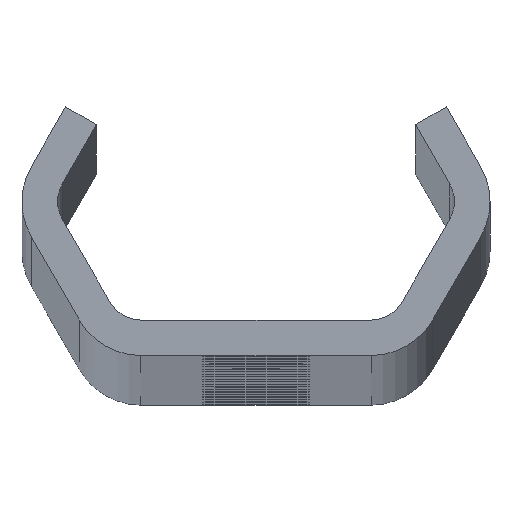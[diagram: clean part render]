
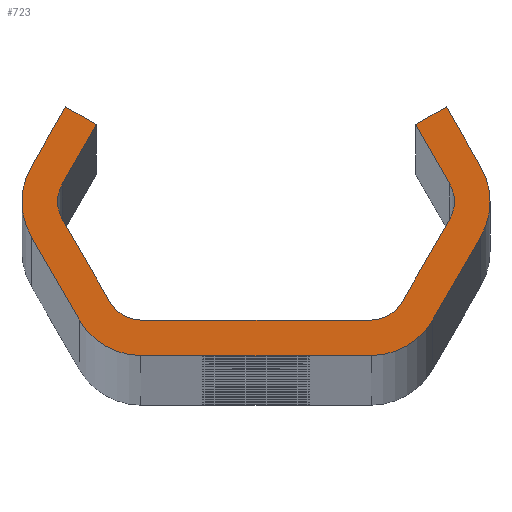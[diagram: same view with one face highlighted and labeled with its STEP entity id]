
A CAD part, top view. The second image highlights one B-rep face of the part: STEP entity #723.
In plain terms, the highlighted planar face has unit normal (0, 0, 1).
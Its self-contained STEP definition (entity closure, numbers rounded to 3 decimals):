
#723=ADVANCED_FACE('NONE',(#2011),#2012,.F.);
#2011=FACE_OUTER_BOUND('',#6545,.T.);
#2012=PLANE('',#6546);
#6545=EDGE_LOOP('',(#13267,#13268,#13269,#13270,#13271,#13272,#13273,#13274,#13275,#13276,#13277,#13278,#13279,#13280,#13281,#13282,#13283,#13284,#13285,#13286,#13287,#13288,#13289,#13290));
#6546=AXIS2_PLACEMENT_3D('',#13291,#13292,#13293);
#13267=ORIENTED_EDGE('',*,*,#17717,.T.);
#13268=ORIENTED_EDGE('',*,*,#17758,.T.);
#13269=ORIENTED_EDGE('',*,*,#17345,.T.);
#13270=ORIENTED_EDGE('',*,*,#17719,.T.);
#13271=ORIENTED_EDGE('',*,*,#17759,.T.);
#13272=ORIENTED_EDGE('',*,*,#17723,.T.);
#13273=ORIENTED_EDGE('',*,*,#17760,.T.);
#13274=ORIENTED_EDGE('',*,*,#17352,.T.);
#13275=ORIENTED_EDGE('',*,*,#17761,.T.);
#13276=ORIENTED_EDGE('',*,*,#17028,.T.);
#13277=ORIENTED_EDGE('',*,*,#17355,.T.);
#13278=ORIENTED_EDGE('',*,*,#17361,.T.);
#13279=ORIENTED_EDGE('',*,*,#17364,.T.);
#13280=ORIENTED_EDGE('',*,*,#17342,.T.);
#13281=ORIENTED_EDGE('',*,*,#17762,.T.);
#13282=ORIENTED_EDGE('',*,*,#17366,.T.);
#13283=ORIENTED_EDGE('',*,*,#17763,.T.);
#13284=ORIENTED_EDGE('',*,*,#17373,.T.);
#13285=ORIENTED_EDGE('',*,*,#17764,.T.);
#13286=ORIENTED_EDGE('',*,*,#17704,.T.);
#13287=ORIENTED_EDGE('',*,*,#17765,.T.);
#13288=ORIENTED_EDGE('',*,*,#17023,.T.);
#13289=ORIENTED_EDGE('',*,*,#17707,.T.);
#13290=ORIENTED_EDGE('',*,*,#17713,.T.);
#13291=CARTESIAN_POINT('',(0.0,0.0,2400.0));
#13292=DIRECTION('',(0.0,0.0,-1.0));
#13293=DIRECTION('',(0.0,-1.0,0.0));
#17023=EDGE_CURVE('NONE',#18968,#18972,#18974,.T.);
#17028=EDGE_CURVE('NONE',#18977,#18981,#18983,.T.);
#17342=EDGE_CURVE('NONE',#19548,#19546,#19549,.T.);
#17345=EDGE_CURVE('NONE',#19552,#19553,#19554,.T.);
#17352=EDGE_CURVE('NONE',#19566,#19564,#19567,.T.);
#17355=EDGE_CURVE('NONE',#18981,#19570,#19571,.T.);
#17361=EDGE_CURVE('NONE',#19570,#19578,#19580,.T.);
#17364=EDGE_CURVE('NONE',#19578,#19548,#19583,.T.);
#17366=EDGE_CURVE('NONE',#19585,#19586,#19587,.T.);
#17373=EDGE_CURVE('NONE',#19599,#19597,#19600,.T.);
#17704=EDGE_CURVE('NONE',#20214,#20212,#20215,.T.);
#17707=EDGE_CURVE('NONE',#18972,#20218,#20219,.T.);
#17713=EDGE_CURVE('NONE',#20218,#20226,#20228,.T.);
#17717=EDGE_CURVE('NONE',#20226,#20232,#20234,.T.);
#17719=EDGE_CURVE('NONE',#19553,#20236,#20237,.T.);
#17723=EDGE_CURVE('NONE',#20242,#20243,#20244,.T.);
#17758=EDGE_CURVE('NONE',#20232,#19552,#20281,.T.);
#17759=EDGE_CURVE('NONE',#20236,#20242,#20282,.T.);
#17760=EDGE_CURVE('NONE',#20243,#19566,#20283,.T.);
#17761=EDGE_CURVE('NONE',#19564,#18977,#20284,.T.);
#17762=EDGE_CURVE('NONE',#19546,#19585,#20285,.T.);
#17763=EDGE_CURVE('NONE',#19586,#19599,#20286,.T.);
#17764=EDGE_CURVE('NONE',#19597,#20214,#20287,.T.);
#17765=EDGE_CURVE('NONE',#20212,#18968,#20288,.T.);
#18968=VERTEX_POINT('',#21851);
#18972=VERTEX_POINT('NONE',#21856);
#18974=CIRCLE('',#21859,3.0);
#18977=VERTEX_POINT('',#21862);
#18981=VERTEX_POINT('NONE',#21867);
#18983=CIRCLE('',#21870,6.0);
#19546=VERTEX_POINT('NONE',#25293);
#19548=VERTEX_POINT('NONE',#25296);
#19549=CIRCLE('',#25297,3.0);
#19552=VERTEX_POINT('NONE',#25301);
#19553=VERTEX_POINT('NONE',#25302);
#19554=CIRCLE('',#25303,6.0);
#19564=VERTEX_POINT('NONE',#25316);
#19566=VERTEX_POINT('NONE',#25319);
#19567=LINE('',#25320,#25321);
#19570=VERTEX_POINT('NONE',#25325);
#19571=LINE('',#25326,#25327);
#19578=VERTEX_POINT('NONE',#25337);
#19580=LINE('',#25340,#25341);
#19583=LINE('',#25345,#25346);
#19585=VERTEX_POINT('NONE',#25348);
#19586=VERTEX_POINT('NONE',#25349);
#19587=LINE('',#25350,#25351);
#19597=VERTEX_POINT('NONE',#25365);
#19599=VERTEX_POINT('NONE',#25368);
#19600=LINE('',#25369,#25370);
#20212=VERTEX_POINT('NONE',#27584);
#20214=VERTEX_POINT('NONE',#27587);
#20215=LINE('',#27588,#27589);
#20218=VERTEX_POINT('NONE',#27593);
#20219=LINE('',#27594,#27595);
#20226=VERTEX_POINT('NONE',#27605);
#20228=LINE('',#27608,#27609);
#20232=VERTEX_POINT('NONE',#27614);
#20234=LINE('',#27617,#27618);
#20236=VERTEX_POINT('NONE',#27620);
#20237=LINE('',#27621,#27622);
#20242=VERTEX_POINT('NONE',#27629);
#20243=VERTEX_POINT('NONE',#27630);
#20244=LINE('',#27631,#27632);
#20281=CIRCLE('',#27672,6.0);
#20282=CIRCLE('',#27673,6.0);
#20283=CIRCLE('',#27674,6.0);
#20284=CIRCLE('',#27675,6.0);
#20285=CIRCLE('',#27676,3.0);
#20286=CIRCLE('',#27677,3.0);
#20287=CIRCLE('',#27678,3.0);
#20288=CIRCLE('',#27679,3.0);
#21851=CARTESIAN_POINT('',(-16.764,0.,2400.0));
#21856=CARTESIAN_POINT('',(-16.362,1.5,2400.0));
#21859=AXIS2_PLACEMENT_3D('',#32845,#32846,#32847);
#21862=CARTESIAN_POINT('',(19.764,0.,2400.0));
#21867=CARTESIAN_POINT('',(18.96,3.,2400.0));
#21870=AXIS2_PLACEMENT_3D('',#32853,#32854,#32855);
#25293=CARTESIAN_POINT('',(16.764,0.,2400.0));
#25296=CARTESIAN_POINT('',(16.362,1.5,2400.0));
#25297=AXIS2_PLACEMENT_3D('',#33164,#33165,#33166);
#25301=CARTESIAN_POINT('',(-19.764,0.,2400.0));
#25302=CARTESIAN_POINT('',(-18.96,-3.,2400.0));
#25303=AXIS2_PLACEMENT_3D('',#33168,#33169,#33170);
#25316=CARTESIAN_POINT('',(18.96,-3.,2400.0));
#25319=CARTESIAN_POINT('',(14.919,-10.,2400.0));
#25320=CARTESIAN_POINT('',(20.692,0.,2400.0));
#25321=VECTOR('',#33178,1000.0);
#25325=CARTESIAN_POINT('',(16.074,8.,2400.0));
#25326=CARTESIAN_POINT('',(16.074,8.,2400.0));
#25327=VECTOR('',#33180,1000.0);
#25337=CARTESIAN_POINT('',(13.475,6.5,2400.0));
#25340=CARTESIAN_POINT('',(13.475,6.5,2400.0));
#25341=VECTOR('',#33185,1000.0);
#25345=CARTESIAN_POINT('',(17.228,0.,2400.0));
#25346=VECTOR('',#33187,1000.0);
#25348=CARTESIAN_POINT('',(16.362,-1.5,2400.0));
#25349=CARTESIAN_POINT('',(12.321,-8.5,2400.0));
#25350=CARTESIAN_POINT('',(11.455,-10.0,2400.0));
#25351=VECTOR('',#33188,1000.0);
#25365=CARTESIAN_POINT('',(-9.723,-10.0,2400.0));
#25368=CARTESIAN_POINT('',(9.723,-10.0,2400.0));
#25369=CARTESIAN_POINT('',(-11.455,-10.0,2400.0));
#25370=VECTOR('',#33194,1000.0);
#27584=CARTESIAN_POINT('',(-16.362,-1.5,2400.0));
#27587=CARTESIAN_POINT('',(-12.321,-8.5,2400.0));
#27588=CARTESIAN_POINT('',(-17.228,0.,2400.0));
#27589=VECTOR('',#33552,1000.0);
#27593=CARTESIAN_POINT('',(-13.475,6.5,2400.0));
#27594=CARTESIAN_POINT('',(-13.475,6.5,2400.0));
#27595=VECTOR('',#33554,1000.0);
#27605=CARTESIAN_POINT('',(-16.074,8.,2400.0));
#27608=CARTESIAN_POINT('',(-13.475,6.5,2400.0));
#27609=VECTOR('',#33559,1000.0);
#27614=CARTESIAN_POINT('',(-18.96,3.,2400.0));
#27617=CARTESIAN_POINT('',(-16.074,8.,2400.0));
#27618=VECTOR('',#33562,1000.0);
#27620=CARTESIAN_POINT('',(-14.919,-10.,2400.0));
#27621=CARTESIAN_POINT('',(-20.692,0.,2400.0));
#27622=VECTOR('',#33563,1000.0);
#27629=CARTESIAN_POINT('',(-9.723,-13.0,2400.0));
#27630=CARTESIAN_POINT('',(9.723,-13.0,2400.0));
#27631=CARTESIAN_POINT('',(-13.187,-13.0,2400.0));
#27632=VECTOR('',#33566,1000.0);
#27672=AXIS2_PLACEMENT_3D('',#33660,#33661,#33662);
#27673=AXIS2_PLACEMENT_3D('',#33663,#33664,#33665);
#27674=AXIS2_PLACEMENT_3D('',#33666,#33667,#33668);
#27675=AXIS2_PLACEMENT_3D('',#33669,#33670,#33671);
#27676=AXIS2_PLACEMENT_3D('',#33672,#33673,#33674);
#27677=AXIS2_PLACEMENT_3D('',#33675,#33676,#33677);
#27678=AXIS2_PLACEMENT_3D('',#33678,#33679,#33680);
#27679=AXIS2_PLACEMENT_3D('',#33681,#33682,#33683);
#32845=CARTESIAN_POINT('',(-13.764,0.,2400.0));
#32846=DIRECTION('',(0.0,0.0,-1.0));
#32847=DIRECTION('',(-1.0,0.0,0.0));
#32853=CARTESIAN_POINT('',(13.764,0.,2400.0));
#32854=DIRECTION('',(0.0,0.0,1.0));
#32855=DIRECTION('',(-1.0,0.0,0.0));
#33164=CARTESIAN_POINT('',(13.764,0.,2400.0));
#33165=DIRECTION('',(0.0,0.0,-1.0));
#33166=DIRECTION('',(-1.0,0.0,0.0));
#33168=CARTESIAN_POINT('',(-13.764,0.,2400.0));
#33169=DIRECTION('',(0.0,0.0,1.0));
#33170=DIRECTION('',(-1.0,0.0,0.0));
#33178=DIRECTION('',(0.5,0.866,-0.0));
#33180=DIRECTION('',(-0.5,0.866,-0.0));
#33185=DIRECTION('',(-0.866,-0.5,-0.0));
#33187=DIRECTION('',(0.5,-0.866,-0.0));
#33188=DIRECTION('',(-0.5,-0.866,-0.0));
#33194=DIRECTION('',(-1.0,0.,-0.0));
#33552=DIRECTION('',(-0.5,0.866,-0.0));
#33554=DIRECTION('',(0.5,0.866,-0.0));
#33559=DIRECTION('',(-0.866,0.5,0.0));
#33562=DIRECTION('',(-0.5,-0.866,0.0));
#33563=DIRECTION('',(0.5,-0.866,0.0));
#33566=DIRECTION('',(1.0,0.0,0.0));
#33660=CARTESIAN_POINT('',(-13.764,0.,2400.0));
#33661=DIRECTION('',(0.0,0.0,1.0));
#33662=DIRECTION('',(-1.0,0.0,0.0));
#33663=CARTESIAN_POINT('',(-9.723,-7.0,2400.0));
#33664=DIRECTION('',(0.0,0.0,1.0));
#33665=DIRECTION('',(-1.0,0.0,0.0));
#33666=CARTESIAN_POINT('',(9.723,-7.0,2400.0));
#33667=DIRECTION('',(0.0,0.0,1.0));
#33668=DIRECTION('',(-1.0,0.,0.0));
#33669=CARTESIAN_POINT('',(13.764,0.,2400.0));
#33670=DIRECTION('',(0.0,0.0,1.0));
#33671=DIRECTION('',(-1.0,0.0,0.0));
#33672=CARTESIAN_POINT('',(13.764,0.,2400.0));
#33673=DIRECTION('',(0.0,0.0,-1.0));
#33674=DIRECTION('',(-1.0,0.0,0.0));
#33675=CARTESIAN_POINT('',(9.723,-7.0,2400.0));
#33676=DIRECTION('',(0.0,0.0,-1.0));
#33677=DIRECTION('',(-1.0,0.0,0.0));
#33678=CARTESIAN_POINT('',(-9.723,-7.0,2400.0));
#33679=DIRECTION('',(0.0,0.0,-1.0));
#33680=DIRECTION('',(-1.0,0.0,0.0));
#33681=CARTESIAN_POINT('',(-13.764,0.,2400.0));
#33682=DIRECTION('',(0.0,0.0,-1.0));
#33683=DIRECTION('',(-1.0,0.0,0.0));
